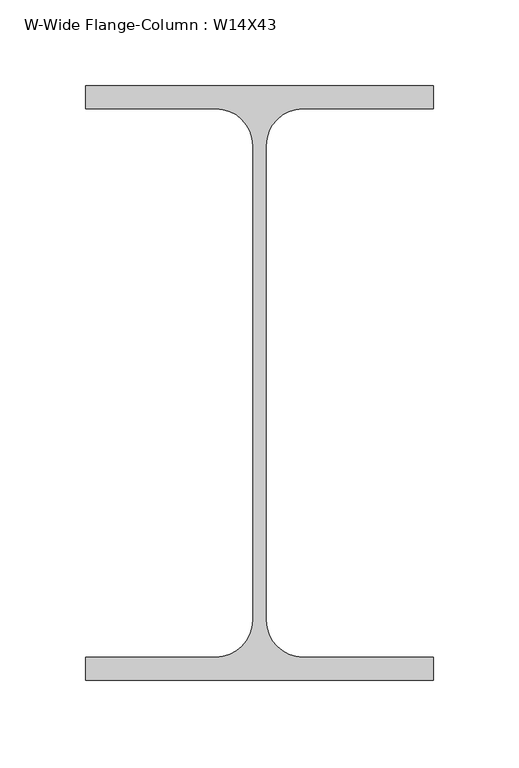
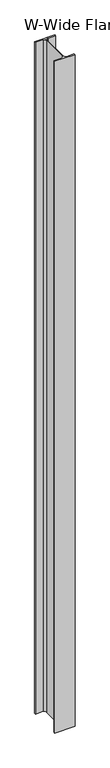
"""IFC4 building model written with IfcOpenShell, lengths in millimetres: column geometry, W-Wide Flange-Column : W14X43."""

from ifc_helpers import new_model, si_unit, point, frame_2d, origin, origin_with_axes, place, context, project, spatial, polyline, circle_curve, trimmed, segment, composite_curve, outline, extrude, source, transform, mapped, element, save


def w_wide_flange_column_w14x43_c17b279d(model_context):
    return source(origin(), model_context, "Body", "SweptSolid", [
        extrude(outline(composite_curve([segment(polyline([(101.5503906, 173.4839844), (101.5503906, 159.9902344), (25.3007812, 159.9902344)]), True, "CONTINUOUS"), segment(trimmed(circle_curve(frame_2d((25.3007812, 138.5589844)), 21.43125), [point((25.3007812, 159.9902344))], [point((3.8695312, 138.5589844))], True, "CARTESIAN"), True, "CONTINUOUS"), segment(polyline([(3.8695312, 138.5589844), (3.8695312, -138.5589844)]), True, "CONTINUOUS"), segment(trimmed(circle_curve(frame_2d((25.3007812, -138.5589844)), 21.43125), [point((3.8695312, -138.5589844))], [point((25.3007812, -159.9902344))], True, "CARTESIAN"), True, "CONTINUOUS"), segment(polyline([(25.3007812, -159.9902344), (101.5503906, -159.9902344), (101.5503906, -173.4839844), (-101.5503906, -173.4839844), (-101.5503906, -159.9902344), (-25.3007813, -159.9902344)]), True, "CONTINUOUS"), segment(trimmed(circle_curve(frame_2d((-25.3007813, -138.5589844)), 21.43125), [point((-25.3007813, -159.9902344))], [point((-3.8695313, -138.5589844))], True, "CARTESIAN"), True, "CONTINUOUS"), segment(polyline([(-3.8695313, -138.5589844), (-3.8695313, 138.5589844)]), True, "CONTINUOUS"), segment(trimmed(circle_curve(frame_2d((-25.3007813, 138.5589844)), 21.43125), [point((-3.8695313, 138.5589844))], [point((-25.3007813, 159.9902344))], True, "CARTESIAN"), True, "CONTINUOUS"), segment(polyline([(-25.3007813, 159.9902344), (-101.5503906, 159.9902344), (-101.5503906, 173.4839844), (101.5503906, 173.4839844)]), True, "CONTINUOUS")], self_intersect=False)), origin_with_axes(), (0.0, 0.0, 1.0), 7118.35),
    ])


if __name__ == "__main__":
    model = new_model("IFC4")
    model_context = context("Model", 3, world=origin())
    ifc_project = project(units=[si_unit("LENGTHUNIT", "METRE", prefix="MILLI")], contexts=[model_context])
    site = spatial("IfcSite", under=ifc_project)
    building = spatial("IfcBuilding", under=site)
    placement = place(None, origin())
    w_wide_flange_column_w14x43_shape = w_wide_flange_column_w14x43_c17b279d(model_context)
    element("IfcColumn", 1, ObjectType="W-Wide Flange-Column : W14X43", at=placement, inside=building, context=model_context, shape_type="MappedRepresentation", body=[
        mapped(w_wide_flange_column_w14x43_shape, transform((0.0, 0.0, 0.0), x_axis=(1.0, 0.0, 0.0), y_axis=(0.0, 1.0, 0.0), z_axis=(0.0, 0.0, 1.0))),
    ])
    save(model, "model.ifc")
